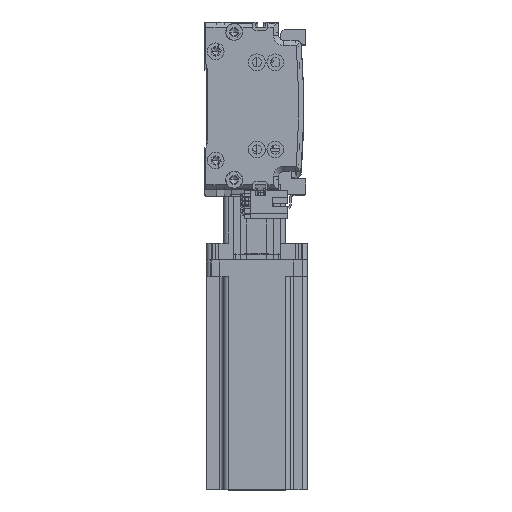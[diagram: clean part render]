
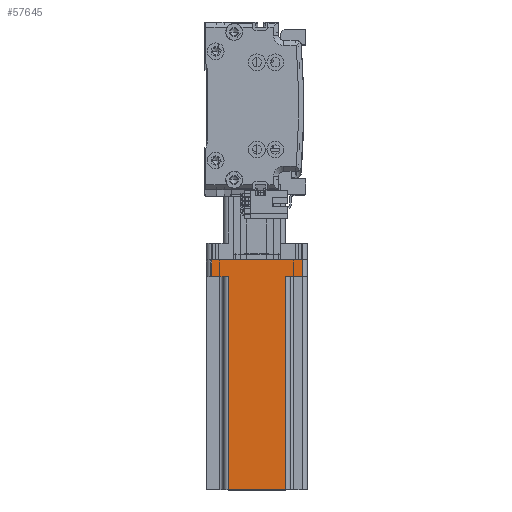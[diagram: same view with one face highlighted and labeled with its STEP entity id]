
A CAD part, top view. The second image highlights one B-rep face of the part: STEP entity #57645.
In plain terms, the highlighted planar face has unit normal (0, 0, 1) as drawn and (0, 1, 0) by its records, which use the part's own axes.
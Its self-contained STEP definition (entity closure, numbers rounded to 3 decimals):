
#980 = VERTEX_POINT ( 'NONE', #37556 ) ;
#1001 = CARTESIAN_POINT ( 'NONE',  ( 27., 30., 10. ) ) ;
#1030 = VECTOR ( 'NONE', #16545, 1000. ) ;
#1374 = EDGE_CURVE ( 'NONE', #1384, #64647, #59198, .T. ) ;
#1384 = VERTEX_POINT ( 'NONE', #35697 ) ;
#1691 = DIRECTION ( 'NONE',  ( 0., 0., 1. ) ) ;
#2631 = LINE ( 'NONE', #6429, #1030 ) ;
#3821 = VECTOR ( 'NONE', #54390, 1000. ) ;
#4835 = ORIENTED_EDGE ( 'NONE', *, *, #1374, .T. ) ;
#5833 = LINE ( 'NONE', #57246, #45127 ) ;
#6429 = CARTESIAN_POINT ( 'NONE',  ( -20., 30., 10. ) ) ;
#7119 = CARTESIAN_POINT ( 'NONE',  ( 30., 30., 0. ) ) ;
#7139 = VECTOR ( 'NONE', #1691, 1000. ) ;
#8806 = VERTEX_POINT ( 'NONE', #53512 ) ;
#11370 = VERTEX_POINT ( 'NONE', #50039 ) ;
#12105 = VECTOR ( 'NONE', #40234, 1000. ) ;
#12251 = DIRECTION ( 'NONE',  ( -1., 0., 0. ) ) ;
#13942 = EDGE_CURVE ( 'NONE', #64647, #61346, #2631, .T. ) ;
#15569 = EDGE_LOOP ( 'NONE', ( #61109, #23025, #34666, #23442, #58072, #47012, #24779, #4835 ) ) ;
#16545 = DIRECTION ( 'NONE',  ( 1., 0., 0. ) ) ;
#17087 = EDGE_CURVE ( 'NONE', #61346, #11370, #34418, .T. ) ;
#17459 = LINE ( 'NONE', #54158, #3821 ) ;
#18316 = VECTOR ( 'NONE', #61238, 1000. ) ;
#18881 = VECTOR ( 'NONE', #12251, 1000. ) ;
#23025 = ORIENTED_EDGE ( 'NONE', *, *, #17087, .T. ) ;
#23442 = ORIENTED_EDGE ( 'NONE', *, *, #48242, .T. ) ;
#24745 = DIRECTION ( 'NONE',  ( 0., -1., 0. ) ) ;
#24779 = ORIENTED_EDGE ( 'NONE', *, *, #42590, .T. ) ;
#25476 = CARTESIAN_POINT ( 'NONE',  ( -27., 30., 137. ) ) ;
#26462 = EDGE_CURVE ( 'NONE', #47369, #11370, #51402, .T. ) ;
#27766 = CARTESIAN_POINT ( 'NONE',  ( -27., 30., 10. ) ) ;
#28129 = CARTESIAN_POINT ( 'NONE',  ( 17., 30., 137. ) ) ;
#30895 = CARTESIAN_POINT ( 'NONE',  ( 17., 30., 137. ) ) ;
#34120 = LINE ( 'NONE', #7119, #18881 ) ;
#34418 = LINE ( 'NONE', #37538, #7139 ) ;
#34666 = ORIENTED_EDGE ( 'NONE', *, *, #26462, .F. ) ;
#34782 = PLANE ( 'NONE',  #54217 ) ;
#35697 = CARTESIAN_POINT ( 'NONE',  ( -27., 30., 0. ) ) ;
#37538 = CARTESIAN_POINT ( 'NONE',  ( -17., 30., 137. ) ) ;
#37556 = CARTESIAN_POINT ( 'NONE',  ( 17., 30., 10. ) ) ;
#40225 = CARTESIAN_POINT ( 'NONE',  ( -17., 30., 10. ) ) ;
#40234 = DIRECTION ( 'NONE',  ( -1., 0., 0. ) ) ;
#42590 = EDGE_CURVE ( 'NONE', #8806, #1384, #34120, .T. ) ;
#45127 = VECTOR ( 'NONE', #62352, 1000. ) ;
#47012 = ORIENTED_EDGE ( 'NONE', *, *, #57914, .T. ) ;
#47369 = VERTEX_POINT ( 'NONE', #30895 ) ;
#48242 = EDGE_CURVE ( 'NONE', #47369, #980, #61373, .T. ) ;
#50039 = CARTESIAN_POINT ( 'NONE',  ( -17., 30., 137. ) ) ;
#51402 = LINE ( 'NONE', #55934, #12105 ) ;
#53512 = CARTESIAN_POINT ( 'NONE',  ( 27., 30., 0. ) ) ;
#54158 = CARTESIAN_POINT ( 'NONE',  ( 20., 30., 10. ) ) ;
#54217 = AXIS2_PLACEMENT_3D ( 'NONE', #55401, #24745, #60527 ) ;
#54390 = DIRECTION ( 'NONE',  ( -1., 0., 0. ) ) ;
#54794 = EDGE_CURVE ( 'NONE', #57940, #980, #17459, .T. ) ;
#54824 = FACE_OUTER_BOUND ( 'NONE', #15569, .T. ) ;
#55401 = CARTESIAN_POINT ( 'NONE',  ( 30., 30., 137. ) ) ;
#55934 = CARTESIAN_POINT ( 'NONE',  ( 30., 30., 137. ) ) ;
#57246 = CARTESIAN_POINT ( 'NONE',  ( 27., 30., 137. ) ) ;
#57645 = ADVANCED_FACE ( 'NONE', ( #54824 ), #34782, .F. ) ;
#57914 = EDGE_CURVE ( 'NONE', #57940, #8806, #5833, .T. ) ;
#57940 = VERTEX_POINT ( 'NONE', #1001 ) ;
#58072 = ORIENTED_EDGE ( 'NONE', *, *, #54794, .F. ) ;
#59198 = LINE ( 'NONE', #25476, #18316 ) ;
#59778 = VECTOR ( 'NONE', #63895, 1000. ) ;
#60527 = DIRECTION ( 'NONE',  ( 1., 0., 0. ) ) ;
#61109 = ORIENTED_EDGE ( 'NONE', *, *, #13942, .T. ) ;
#61238 = DIRECTION ( 'NONE',  ( 0., 0., 1. ) ) ;
#61346 = VERTEX_POINT ( 'NONE', #40225 ) ;
#61373 = LINE ( 'NONE', #28129, #59778 ) ;
#62352 = DIRECTION ( 'NONE',  ( 0., 0., -1. ) ) ;
#63895 = DIRECTION ( 'NONE',  ( 0., 0., -1. ) ) ;
#64647 = VERTEX_POINT ( 'NONE', #27766 ) ;
